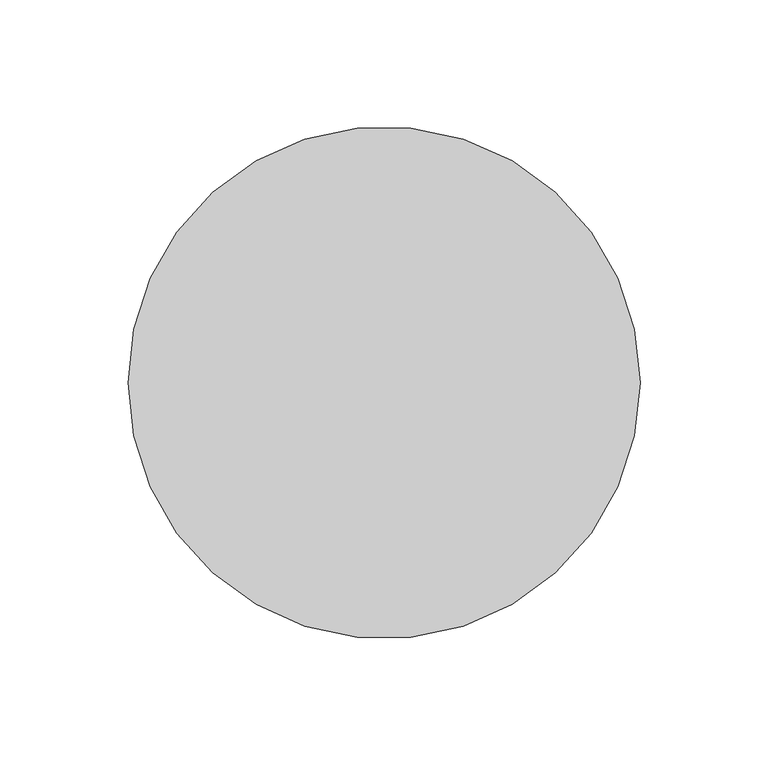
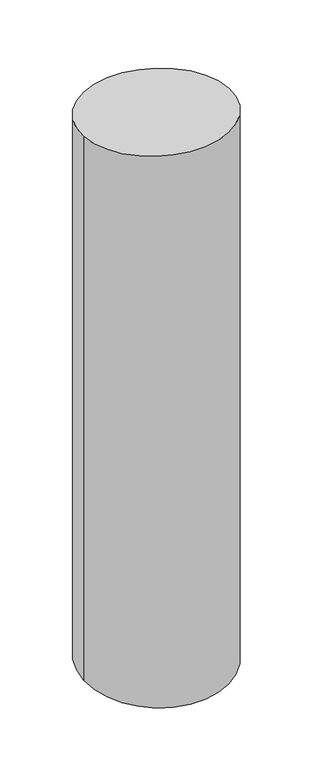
"""IFC4 building model written with IfcOpenShell, lengths in millimetres: member geometry, 矩形竖梃 : 圆瓦."""

from ifc_helpers import new_model, si_unit, frame, origin, origin_with_axes, place, context, project, spatial, ellipse_curve, source, transform, mapped, element, save
from ifc_brep_helpers import plane_surface, cylinder_surface, advanced_brep


def member_44465ff4(model_context):
    return source(origin(), model_context, "Body", "AdvancedBrep", [
        advanced_brep(
        [(-100.0, 0.0, 0.0), (100.0, 0.0, 0.0), (100.0, 0.0, -790.1124317), (-100.0, 0.0, -790.1124317)],
        [
            (0, 1, ellipse_curve(frame((0.0, 0.0, 0.0), z_axis=(0.0, -0.06767279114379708, -0.9977075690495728), x_axis=(0.0, -0.9977075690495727, 0.0676727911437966)), 100.2297698, 100.0)),
            (1, 2),
            (2, 3, ellipse_curve(frame((0.0, 0.0, -790.1124317), z_axis=(0.0, -0.06558492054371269, 0.9978469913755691), x_axis=(0.0, 0.9978469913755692, 0.06558492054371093)), 100.2157654, 100.0)),
            (3, 0),
            (1, 0, ellipse_curve(frame((0.0, 0.0, 0.0), z_axis=(0.0, -0.06767279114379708, -0.9977075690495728), x_axis=(0.0, -0.9977075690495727, 0.0676727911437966)), 100.2297698, 100.0)),
            (3, 2, ellipse_curve(frame((0.0, 0.0, -790.1124317), z_axis=(0.0, -0.06558492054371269, 0.9978469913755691), x_axis=(0.0, 0.9978469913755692, 0.06558492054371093)), 100.2157654, 100.0)),
        ],
        [
            cylinder_surface(origin_with_axes(), 100.0),
            plane_surface(frame((-304.8, 0.0, 0.0), z_axis=(0.0, 0.06767279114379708, 0.9977075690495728), x_axis=(0.0, 0.9977075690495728, -0.06767279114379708))),
            plane_surface(frame((-304.8, 0.0, -790.1124317), z_axis=(0.0, 0.06558492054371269, -0.9978469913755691), x_axis=(0.0, 0.9978469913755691, 0.06558492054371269))),
        ],
        [
            (0, [[1, 2, 3, 4]]),
            (0, [[5, -4, 6, -2]]),
            (1, [[-1, -5]]),
            (2, [[-6, -3]]),
        ],
    ),
    ])


if __name__ == "__main__":
    model = new_model("IFC4")
    model_context = context("Model", 3, world=origin())
    ifc_project = project(units=[si_unit("LENGTHUNIT", "METRE", prefix="MILLI")], contexts=[model_context])
    site = spatial("IfcSite", under=ifc_project)
    building = spatial("IfcBuilding", under=site)
    placement = place(None, origin())
    member_shape = member_44465ff4(model_context)
    element("IfcMember", 1, ObjectType="矩形竖梃 : 圆瓦", at=placement, inside=building, context=model_context, shape_type="MappedRepresentation", body=[
        mapped(member_shape, transform((0.0, 0.0, 0.0), x_axis=(1.0, 0.0, 0.0), y_axis=(0.0, 1.0, 0.0), z_axis=(0.0, 0.0, 1.0))),
    ])
    save(model, "model.ifc")
